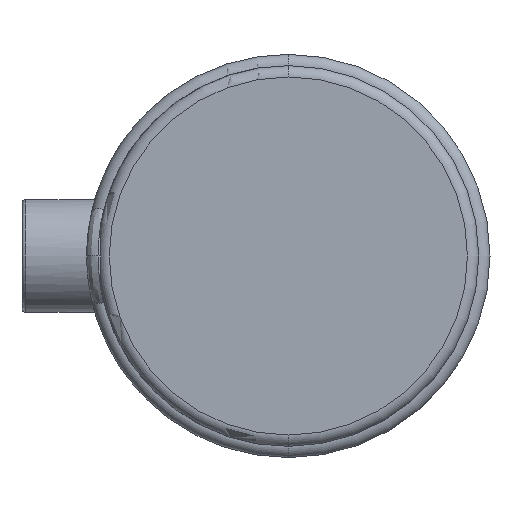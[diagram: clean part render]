
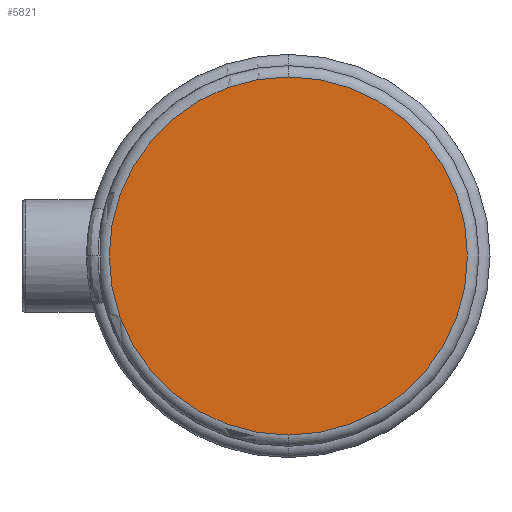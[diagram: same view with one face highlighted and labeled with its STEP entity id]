
A CAD part, left-side view. The second image highlights one B-rep face of the part: STEP entity #5821.
In plain terms, the highlighted planar face has unit normal (-1, 0, 0).
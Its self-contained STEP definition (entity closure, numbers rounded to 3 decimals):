
#159 = CARTESIAN_POINT ( 'NONE',  ( 0., 0., -47.6 ) ) ;
#320 = DIRECTION ( 'NONE',  ( 0., 0., 1. ) ) ;
#431 = DIRECTION ( 'NONE',  ( 0., 0., 1. ) ) ;
#747 = PLANE ( 'NONE',  #2447 ) ;
#1325 = AXIS2_PLACEMENT_3D ( 'NONE', #5886, #3135, #320 ) ;
#1430 = ORIENTED_EDGE ( 'NONE', *, *, #2158, .T. ) ;
#1992 = ORIENTED_EDGE ( 'NONE', *, *, #4951, .T. ) ;
#2131 = VERTEX_POINT ( 'NONE', #5259 ) ;
#2158 = EDGE_CURVE ( 'NONE', #2131, #4602, #4646, .T. ) ;
#2175 = DIRECTION ( 'NONE',  ( -1., 0., 0. ) ) ;
#2447 = AXIS2_PLACEMENT_3D ( 'NONE', #3979, #2175, #5369 ) ;
#2914 = FACE_OUTER_BOUND ( 'NONE', #4939, .T. ) ;
#3135 = DIRECTION ( 'NONE',  ( -1., 0., 0. ) ) ;
#3231 = DIRECTION ( 'NONE',  ( -1., 0., 0. ) ) ;
#3979 = CARTESIAN_POINT ( 'NONE',  ( 0., 0., 0. ) ) ;
#4602 = VERTEX_POINT ( 'NONE', #159 ) ;
#4622 = CIRCLE ( 'NONE', #1325, 47.6 ) ;
#4646 = CIRCLE ( 'NONE', #4860, 47.6 ) ;
#4860 = AXIS2_PLACEMENT_3D ( 'NONE', #5986, #3231, #431 ) ;
#4939 = EDGE_LOOP ( 'NONE', ( #1430, #1992 ) ) ;
#4951 = EDGE_CURVE ( 'NONE', #4602, #2131, #4622, .T. ) ;
#5259 = CARTESIAN_POINT ( 'NONE',  ( 0., 0., 47.6 ) ) ;
#5369 = DIRECTION ( 'NONE',  ( 0., 0., 1. ) ) ;
#5821 = ADVANCED_FACE ( 'NONE', ( #2914 ), #747, .T. ) ;
#5886 = CARTESIAN_POINT ( 'NONE',  ( 0., 0., 0. ) ) ;
#5986 = CARTESIAN_POINT ( 'NONE',  ( 0., 0., 0. ) ) ;
